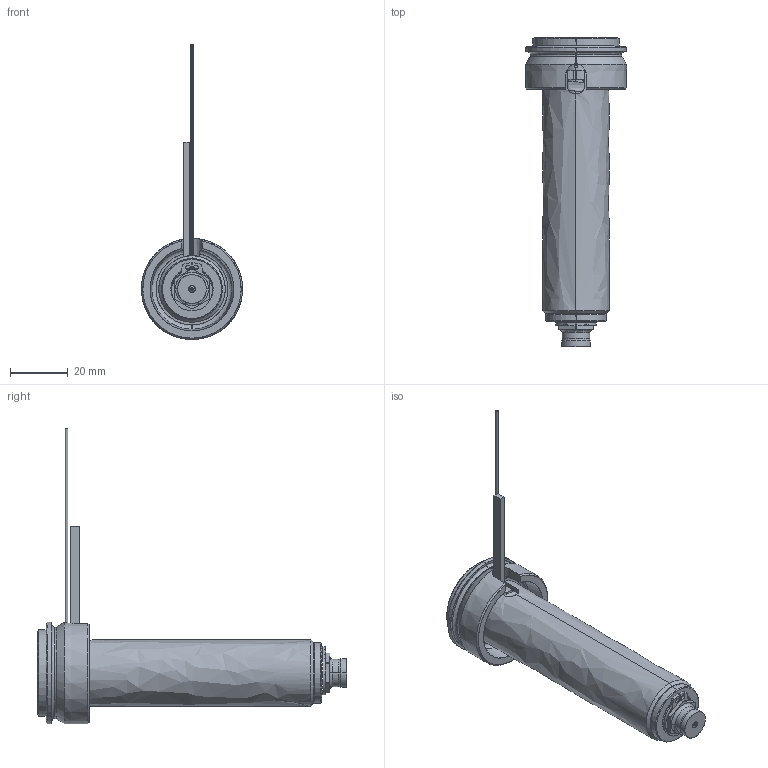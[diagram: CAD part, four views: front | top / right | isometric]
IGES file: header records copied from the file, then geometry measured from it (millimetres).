
Start section: SolidWorks IGES file using analytic representation for surfaces
Global section: file name: C:\Documents and Settings\ws-20\Desktop\TEM\UGEP3152-M-A-1 [Øf-0.90 P-0 ØC-7.0].IGS; native system: SolidWorks 2012; preprocessor: SolidWorks 2012; author: ws-20; date: 120404.082030; units: millimetre
Bounding box: 35 x 107 x 102.1 mm (x, y, z)
Surface area: 18237.1 mm2 (no closed solid volume)
Topology: 0 solids, 0 shells, 121 faces, 1688 edges, 1688 vertices
Faces by surface type: revolution 73, bspline 48
